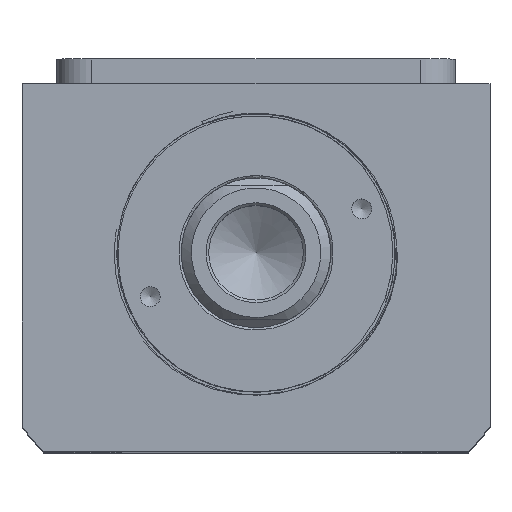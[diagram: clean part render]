
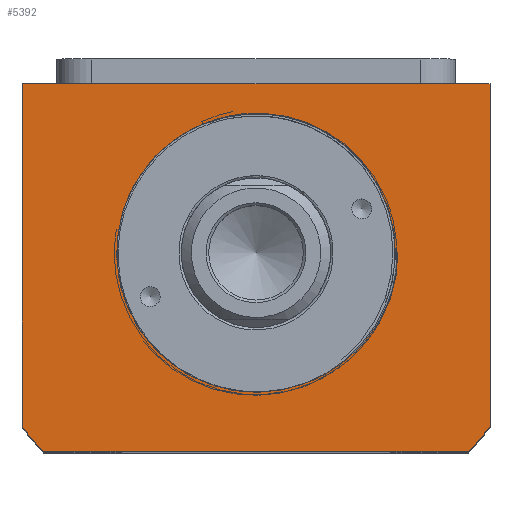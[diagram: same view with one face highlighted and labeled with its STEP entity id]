
A CAD part, top view. The second image highlights one B-rep face of the part: STEP entity #5392.
In plain terms, the highlighted planar face has unit normal (0, 0, 1).
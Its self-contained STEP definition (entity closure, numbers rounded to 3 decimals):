
#2618=PLANE('',#11779);
#3341=LINE('',#16669,#4244);
#3378=LINE('',#17331,#4281);
#3395=LINE('',#17369,#4298);
#3401=LINE('',#17379,#4304);
#3402=LINE('',#17384,#4305);
#4244=VECTOR('',#12331,1.);
#4281=VECTOR('',#12488,1.);
#4298=VECTOR('',#12521,1.);
#4304=VECTOR('',#12529,1.);
#4305=VECTOR('',#12538,1.);
#5392=ADVANCED_FACE('',(#6020,#6021),#2618,.T.);
#5874=CIRCLE('',#11768,58.5);
#5878=CIRCLE('',#11776,58.5);
#5879=CIRCLE('',#11778,28.);
#6020=FACE_BOUND('',#6240,.T.);
#6021=FACE_BOUND('',#6241,.T.);
#6240=EDGE_LOOP('',(#7061,#7062,#7063));
#6241=EDGE_LOOP('',(#7064,#7065,#7066,#7067,#7068,#7069));
#7061=ORIENTED_EDGE('',*,*,#10317,.F.);
#7062=ORIENTED_EDGE('',*,*,#10318,.T.);
#7063=ORIENTED_EDGE('',*,*,#10319,.T.);
#7064=ORIENTED_EDGE('',*,*,#10314,.T.);
#7065=ORIENTED_EDGE('',*,*,#10173,.T.);
#7066=ORIENTED_EDGE('',*,*,#10316,.T.);
#7067=ORIENTED_EDGE('',*,*,#10286,.T.);
#7068=ORIENTED_EDGE('',*,*,#10298,.T.);
#7069=ORIENTED_EDGE('',*,*,#10308,.T.);
#9280=VERTEX_POINT('',#16668);
#9281=VERTEX_POINT('',#16670);
#9385=VERTEX_POINT('',#17330);
#9386=VERTEX_POINT('',#17332);
#9392=VERTEX_POINT('',#17350);
#9398=VERTEX_POINT('',#17368);
#9402=VERTEX_POINT('',#17385);
#9403=VERTEX_POINT('',#17386);
#9404=VERTEX_POINT('',#17397);
#10173=EDGE_CURVE('',#9281,#9280,#3341,.T.);
#10286=EDGE_CURVE('',#9386,#9385,#3378,.T.);
#10298=EDGE_CURVE('',#9385,#9392,#5874,.T.);
#10308=EDGE_CURVE('',#9392,#9398,#3395,.T.);
#10314=EDGE_CURVE('',#9398,#9281,#3401,.T.);
#10316=EDGE_CURVE('',#9280,#9386,#5878,.T.);
#10317=EDGE_CURVE('',#9402,#9403,#3402,.T.);
#10318=EDGE_CURVE('',#9402,#9404,#11342,.T.);
#10319=EDGE_CURVE('',#9404,#9403,#5879,.T.);
#11342=B_SPLINE_CURVE_WITH_KNOTS('',3,(#17387,#17388,#17389,#17390,#17391,
#17392,#17393,#17394,#17395,#17396),.UNSPECIFIED.,.F.,.F.,(4,2,2,2,4),(0.,
0.25,0.5,0.75,1.),.UNSPECIFIED.);
#11768=AXIS2_PLACEMENT_3D('',#17351,#12504,#12505);
#11776=AXIS2_PLACEMENT_3D('',#17382,#12534,#12535);
#11778=AXIS2_PLACEMENT_3D('',#17398,#12539,#12540);
#11779=AXIS2_PLACEMENT_3D('',#17399,#12541,#12542);
#12331=DIRECTION('',(0.,-1.,0.));
#12488=DIRECTION('',(1.,0.,0.));
#12504=DIRECTION('',(0.,0.,1.));
#12505=DIRECTION('',(1.,0.,0.));
#12521=DIRECTION('',(0.,1.,0.));
#12529=DIRECTION('',(-1.,0.,0.));
#12534=DIRECTION('',(0.,0.,1.));
#12535=DIRECTION('',(1.,0.,0.));
#12538=DIRECTION('',(-1.,0.,0.));
#12539=DIRECTION('',(0.,0.,-1.));
#12540=DIRECTION('',(1.,0.,0.));
#12541=DIRECTION('',(0.,0.,1.));
#12542=DIRECTION('',(-1.,0.,0.));
#16668=CARTESIAN_POINT('',(-47.,-34.832,62.5));
#16669=CARTESIAN_POINT('',(-47.,-34.832,62.5));
#16670=CARTESIAN_POINT('',(-47.,34.,62.5));
#17330=CARTESIAN_POINT('',(42.688,-40.,62.5));
#17331=CARTESIAN_POINT('',(42.688,-40.,62.5));
#17332=CARTESIAN_POINT('',(-42.688,-40.,62.5));
#17350=CARTESIAN_POINT('',(47.,-34.832,62.5));
#17351=CARTESIAN_POINT('',(0.,0.,62.5));
#17368=CARTESIAN_POINT('',(47.,34.,62.5));
#17369=CARTESIAN_POINT('',(47.,34.,62.5));
#17379=CARTESIAN_POINT('',(-47.,34.,62.5));
#17382=CARTESIAN_POINT('',(0.,0.,62.5));
#17384=CARTESIAN_POINT('',(0.,0.,62.5));
#17385=CARTESIAN_POINT('',(28.495,0.,62.5));
#17386=CARTESIAN_POINT('',(28.,0.,62.5));
#17387=CARTESIAN_POINT('',(28.495,0.,62.5));
#17388=CARTESIAN_POINT('',(28.456,-2.841,62.5));
#17389=CARTESIAN_POINT('',(27.987,-5.656,62.5));
#17390=CARTESIAN_POINT('',(26.264,-10.986,62.5));
#17391=CARTESIAN_POINT('',(24.983,-13.561,62.5));
#17392=CARTESIAN_POINT('',(21.771,-18.15,62.5));
#17393=CARTESIAN_POINT('',(19.795,-20.234,62.5));
#17394=CARTESIAN_POINT('',(15.367,-23.675,62.5));
#17395=CARTESIAN_POINT('',(12.892,-25.066,62.5));
#17396=CARTESIAN_POINT('',(10.232,-26.064,62.5));
#17397=CARTESIAN_POINT('',(10.232,-26.064,62.5));
#17398=CARTESIAN_POINT('',(0.,0.,62.5));
#17399=CARTESIAN_POINT('',(0.,0.,62.5));
